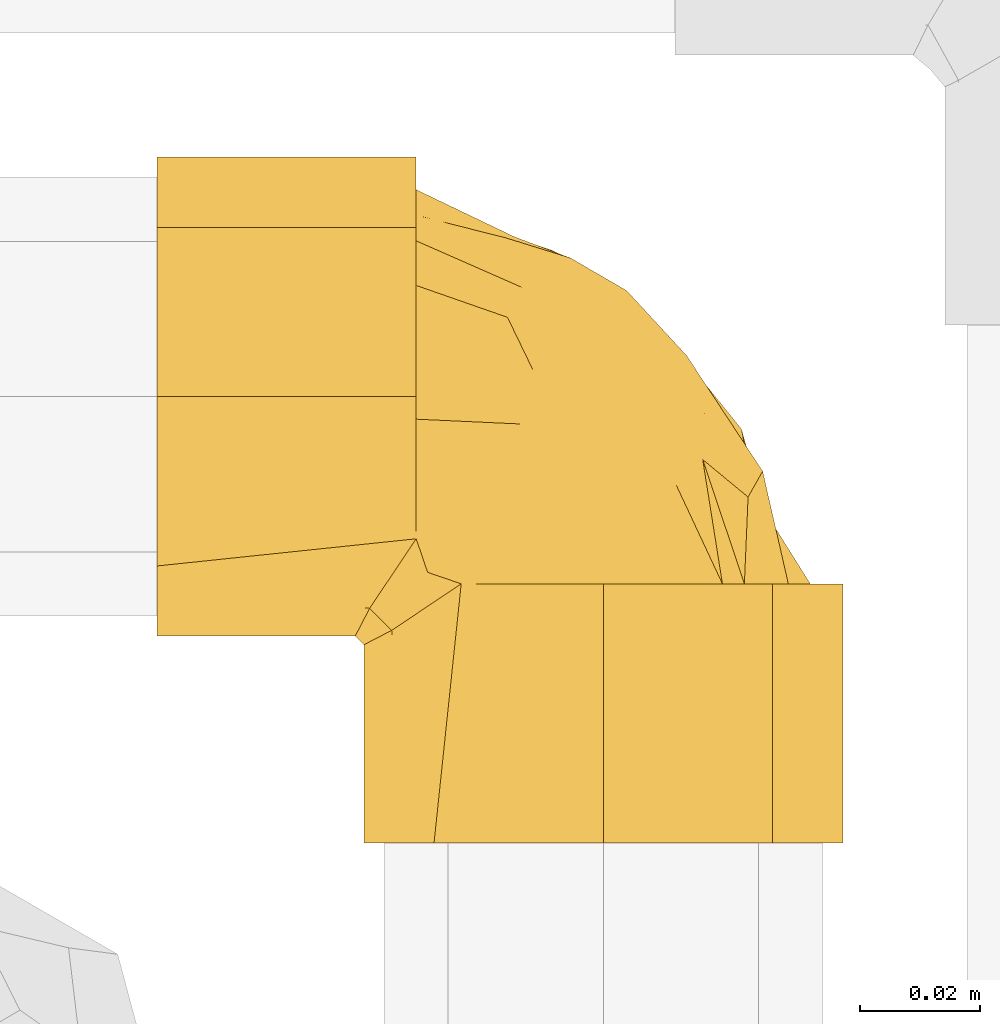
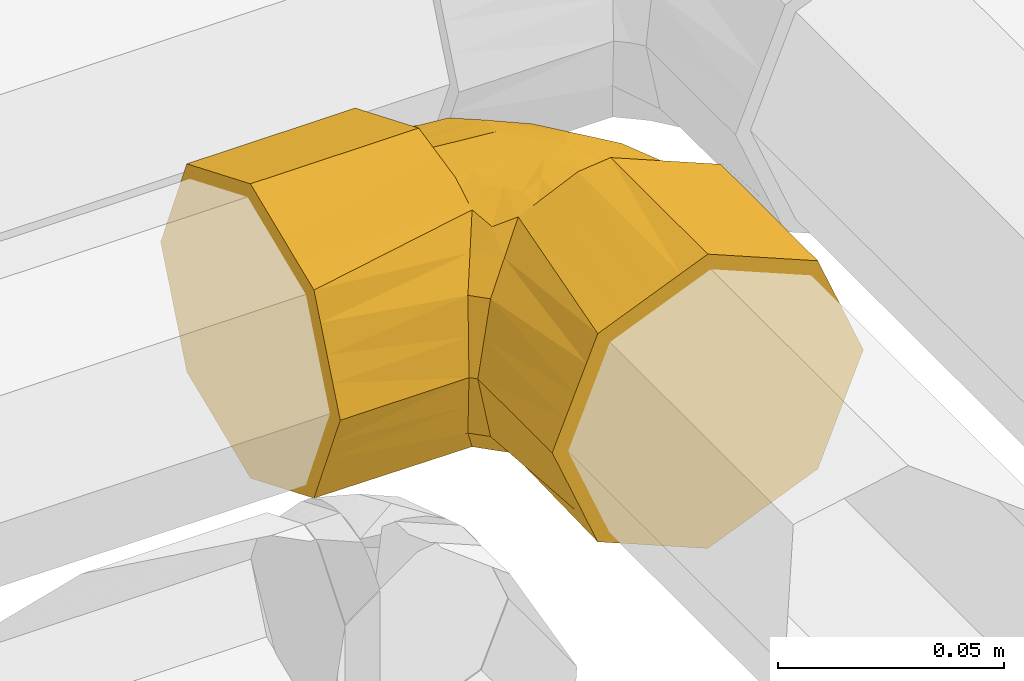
# One storey, part 189 of 652: 1 covering.
"""IFC2X3 building model written with IfcOpenShell, lengths in millimetres."""

from ifc_helpers import new_model, entity, si_unit, converted_unit, direction, frame, origin, place, context, subcontext, project, spatial, faceted_brep, material, type_object, element, save


model = new_model("IFC2X3")

# Units and contexts
model_context = context("Model", 3, precision=0.01, world=frame((0.0, 0.0, 308426.39999999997)), true_north=direction((6.123233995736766e-17, 1.0)))
plan_context = context("Plan", 3, precision=0.01, world=frame((0.0, 0.0, 308426.39999999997)), true_north=direction((6.123233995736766e-17, 1.0)))
body_context = subcontext(model_context, "Body", "Model", "MODEL_VIEW")
ifc_project = project(units=[si_unit("LENGTHUNIT", "METRE", prefix="MILLI"), si_unit("AREAUNIT", "SQUARE_METRE"), si_unit("VOLUMEUNIT", "CUBIC_METRE"), converted_unit("PLANEANGLEUNIT", "DEGREE", entity("IfcPlaneAngleMeasure", 0.017453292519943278), si_unit("PLANEANGLEUNIT", "RADIAN"), dimensions=[0, 0, 0, 0, 0, 0, 0])], contexts=[model_context, plan_context])

# Site, building, storey
site_placement = place(None, origin())
site = spatial("IfcSite", under=ifc_project, at=site_placement, Name="Default", CompositionType="ELEMENT")
building_placement = place(site_placement, origin())
building = spatial("IfcBuilding", under=site, at=building_placement, CompositionType="ELEMENT")
storey_placement = place(building_placement, frame((0.0, 0.0, 1730.6999999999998)))
storey = spatial("IfcBuildingStorey", under=building, at=storey_placement, Name="EG_Produktion_FFB", CompositionType="ELEMENT", Elevation=1730.6999999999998)

# Covering
ifc_material = material(Name="Dämmung - Armaflex-Schlauch")
covering_type = type_object("IfcCoveringType", Name="Rohrdämmung außen:Armaflex-Schlauch", PredefinedType="INSULATION")
covering_placement = place(storey_placement, frame((73330.91575000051, 41450.91419970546, 2523.599652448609)))
element("IfcCovering", 1, at=covering_placement, inside=storey, type_object=covering_type, material=ifc_material, Name="Rohrdämmung außen:Armaflex-Schlauch", ObjectType="Rohrdämmung außen:Armaflex-Schlauch", PredefinedType="INSULATION", context=body_context, shape_type="Brep", body=[
    faceted_brep([(60.144076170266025, 43.00574999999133, 6.083537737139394), (64.13185283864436, 43.00574999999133, 5.617026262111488), (70.33992920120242, 43.00574999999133, 4.890772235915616), (77.97579246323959, 43.00574999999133, 8.331864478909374), (85.61165572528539, 43.00574999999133, 11.77295672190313), (92.7724816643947, 43.00574999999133, 14.999973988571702), (99.933307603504, 43.00574999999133, 18.22699125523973), (104.18429126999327, 43.00574999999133, 29.79013174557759), (108.43527493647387, 43.00574999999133, 41.35327223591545), (104.78880055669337, 43.00574999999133, 48.56469745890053), (101.14232617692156, 43.00574999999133, 55.77612268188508), (97.4958517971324, 43.00574999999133, 62.98754790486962), (93.84937741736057, 43.00574999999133, 70.19897312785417), (86.49570507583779, 43.00574999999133, 72.58148097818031), (78.41781713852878, 43.00574999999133, 75.1986266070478), (70.33992920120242, 43.00574999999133, 77.81577223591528), (64.13185283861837, 43.00574999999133, 77.08951820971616), (60.144076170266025, 43.00574999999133, 76.6230067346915), (55.31227974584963, 43.00574999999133, 74.98470757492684), (50.48048332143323, 43.00574999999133, 73.3464084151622), (58.097909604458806, 43.00574999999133, 76.78344421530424), (65.7153358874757, 43.00574999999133, 80.22048001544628), (74.08425000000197, 43.00574999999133, 81.11127223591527), (82.0800204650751, 43.00574999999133, 77.79931566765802), (88.14082570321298, 43.00574999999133, 75.28884793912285), (95.16911355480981, 43.00574999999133, 72.3776357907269), (102.19740140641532, 43.00574999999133, 69.46642364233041), (105.10861355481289, 43.00574999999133, 62.438135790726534), (108.01982570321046, 43.00574999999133, 55.40984793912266), (110.93103785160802, 43.00574999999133, 48.381560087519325), (113.84224999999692, 43.00574999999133, 41.35327223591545), (110.53029340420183, 43.00574999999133, 33.357501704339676), (108.01982570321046, 43.00574999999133, 27.296696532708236), (105.10861355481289, 43.00574999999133, 20.26840868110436), (102.19740140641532, 43.00574999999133, 13.240120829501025), (95.16911355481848, 43.00574999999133, 10.32890868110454), (88.14082570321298, 43.00574999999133, 7.4176965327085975), (82.08001919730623, 43.00574999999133, 4.9072282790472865), (74.08425000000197, 43.00574999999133, 1.595272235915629), (65.90827541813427, 43.00574999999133, 3.354446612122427), (57.732300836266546, 43.00574999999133, 5.1136209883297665), (50.48048332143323, 43.00574999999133, 9.360136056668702), (55.31227974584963, 43.00574999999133, 7.721836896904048), (67.05596214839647, 0.0, 78.20006008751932), (60.02767429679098, 0.0, 75.28884793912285), (52.9993864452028, 0.0, 72.3776357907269), (45.971098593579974, 0.0, 69.46642364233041), (43.05988644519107, 0.0, 62.438135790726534), (40.1486742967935, 0.0, 55.40984793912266), (37.63820666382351, 0.0, 49.34904293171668), (34.32624999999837, 0.0, 41.35327223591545), (37.63820598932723, 0.0, 33.35750316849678), (40.1486742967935, 0.0, 27.296696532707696), (43.05988644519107, 0.0, 20.268408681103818), (45.971098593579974, 0.0, 13.240120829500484), (52.99938644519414, 0.0, 10.328908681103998), (60.02767429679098, 0.0, 7.417696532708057), (67.05596214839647, 0.0, 4.506484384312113), (74.08425000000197, 0.0, 1.595272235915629), (81.11253785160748, 0.0, 4.506484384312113), (88.14082570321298, 0.0, 7.4176965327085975), (95.16911355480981, 0.0, 10.32890868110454), (102.19740140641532, 0.0, 13.240120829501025), (105.10861355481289, 0.0, 20.2684086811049), (108.01982570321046, 0.0, 27.296696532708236), (110.93103785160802, 0.0, 34.32498438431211), (113.84224999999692, 0.0, 41.35327223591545), (110.93103785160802, 0.0, 48.381560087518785), (108.01982570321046, 0.0, 55.40984793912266), (105.10861355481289, 0.0, 62.438135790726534), (102.19740140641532, 0.0, 69.46642364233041), (90.0757916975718, 0.0, 74.48735878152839), (82.08002084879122, 0.0, 77.79931550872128), (74.08425000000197, 0.0, 81.11127223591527), (44.71268924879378, 39.14313917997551, 66.64936056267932), (34.32624999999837, 32.88734533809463, 41.35327223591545), (36.63557258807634, 34.08393684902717, 50.65279247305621), (38.94489517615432, 35.280528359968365, 59.95231271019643), (37.79023388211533, 34.68223260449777, 55.302552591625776), (44.71268924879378, 39.14313917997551, 16.057183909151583), (36.63557258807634, 34.08393684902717, 32.053751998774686), (38.94489517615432, 35.280528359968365, 22.754231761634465), (35.39615835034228, 33.44172576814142, 37.044807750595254), (43.00574999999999, 74.08424999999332, 1.5952722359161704), (43.00574999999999, 82.08002040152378, 4.907228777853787), (43.00574999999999, 88.14082570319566, 7.4176965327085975), (43.00574999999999, 95.16911355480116, 10.32890868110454), (43.00574999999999, 102.19740140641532, 13.240120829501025), (43.00574999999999, 105.10861355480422, 20.26840868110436), (43.00574999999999, 108.01982570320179, 27.296696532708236), (43.00574999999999, 110.53029398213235, 33.357503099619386), (43.00574999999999, 113.84224999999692, 41.35327223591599), (43.00574999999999, 110.53029355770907, 49.349042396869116), (43.00574999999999, 108.01982570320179, 55.40984793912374), (43.00574999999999, 105.10861355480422, 62.43813579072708), (43.00574999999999, 102.19740140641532, 69.46642364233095), (43.00574999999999, 95.16911355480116, 72.37763579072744), (43.00574999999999, 88.14082570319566, 75.28884793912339), (43.00574999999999, 81.11253785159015, 78.20006008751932), (43.00574999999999, 74.08424999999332, 81.1112722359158), (43.00574999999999, 65.90823846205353, 79.35208118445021), (43.00574999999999, 57.73222692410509, 77.5928901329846), (43.00574999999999, 50.48048332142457, 73.34640841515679), (43.00574999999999, 55.312279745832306, 74.9847075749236), (43.00574999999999, 60.144076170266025, 76.62300673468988), (43.00574999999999, 64.13185213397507, 77.0895181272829), (43.00574999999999, 67.23589066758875, 77.4526451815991), (43.00574999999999, 70.33992920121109, 77.81577223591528), (43.00574999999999, 77.74037965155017, 74.4792263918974), (43.00574999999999, 85.14083010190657, 71.14268054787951), (43.00574999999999, 92.5412805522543, 67.80613470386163), (43.00574999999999, 99.94173100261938, 64.46958885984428), (43.00574999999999, 102.06511698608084, 58.69050970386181), (43.00574999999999, 104.18850296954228, 52.91143054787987), (43.00574999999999, 108.43527493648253, 41.35327223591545), (43.00574999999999, 104.78589932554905, 34.13968333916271), (43.00574999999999, 101.13652371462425, 26.92609444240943), (43.00574999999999, 97.48714810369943, 19.71250554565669), (43.00574999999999, 93.83777249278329, 12.498916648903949), (43.00574999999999, 87.96331166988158, 10.596880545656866), (43.00574999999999, 82.08885084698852, 8.694844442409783), (43.00574999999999, 70.33992920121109, 4.890772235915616), (43.00574999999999, 67.23589066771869, 5.253899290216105), (43.00574999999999, 64.13185213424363, 5.617026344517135), (43.00574999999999, 60.144076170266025, 6.083537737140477), (43.00574999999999, 55.31227974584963, 7.721836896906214), (43.00574999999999, 50.48048332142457, 9.360136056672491), (43.00574999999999, 58.097888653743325, 5.923104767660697), (43.00574999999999, 65.71529398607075, 2.4860734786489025), (0.0, 81.11253785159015, 78.20006008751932), (0.0, 88.14082570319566, 75.28884793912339), (0.0, 95.16911355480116, 72.37763579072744), (0.0, 102.19740140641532, 69.46642364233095), (0.0, 107.21833667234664, 57.34481362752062), (0.0, 110.53029333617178, 49.34904293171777), (0.0, 113.84224999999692, 41.35327223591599), (0.0, 110.93103785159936, 34.32498438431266), (0.0, 108.01982570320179, 27.296696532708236), (0.0, 105.10861355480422, 20.2684086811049), (0.0, 102.19740140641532, 13.240120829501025), (0.0, 95.16911355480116, 10.32890868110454), (0.0, 88.14082570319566, 7.4176965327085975), (0.0, 81.11253785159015, 4.506484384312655), (0.0, 74.08424999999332, 1.5952722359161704), (0.0, 67.05596214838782, 4.506484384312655), (0.0, 60.02767429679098, 7.4176965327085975), (0.0, 52.99938644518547, 10.328908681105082), (0.0, 45.971098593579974, 13.240120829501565), (0.0, 43.05988644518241, 20.26840868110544), (0.0, 40.14867429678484, 27.29669653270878), (0.0, 37.63820673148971, 33.35750137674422), (0.0, 34.32624999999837, 41.35327223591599), (0.0, 37.63820599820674, 49.34904132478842), (0.0, 40.14867429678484, 55.40984793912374), (0.0, 43.05988644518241, 62.43813579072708), (0.0, 45.971098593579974, 69.46642364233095), (0.0, 52.99938644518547, 72.37763579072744), (0.0, 60.02767429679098, 75.28884793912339), (0.0, 66.08847915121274, 77.79931550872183), (0.0, 74.08424999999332, 81.1112722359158), (32.88734533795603, 34.326249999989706, 41.35327223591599), (34.08393684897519, 36.63557258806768, 50.65279247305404), (35.280528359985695, 38.94489517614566, 59.952312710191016), (33.996106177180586, 36.46606666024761, 49.970201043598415), (39.14313917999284, 44.71268924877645, 66.6493605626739), (39.14313917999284, 44.71268924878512, 16.057183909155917), (34.08393684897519, 36.63557258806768, 32.05375199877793), (35.28052835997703, 38.94489517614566, 22.7542317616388), (33.99610617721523, 36.46606666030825, 32.73634342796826), (33.44172575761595, 35.39615833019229, 37.04480783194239), (58.166290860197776, 87.2464164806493, 70.58224481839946), (86.24367512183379, 59.264167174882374, 70.83707710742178), (75.43570574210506, 64.79374823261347, 74.32798861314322), (63.77170858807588, 54.44461824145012, 77.81577223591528), (71.00962303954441, 57.53690591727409, 77.00215070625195), (60.33082901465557, 69.53966351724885, 76.888754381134), (74.69227230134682, 78.61751170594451, 68.42118911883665), (90.57284197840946, 63.635451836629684, 65.41959260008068), (77.92193606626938, 91.69909945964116, 41.35327223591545), (68.6359141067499, 97.0944354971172, 49.419286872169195), (87.88495600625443, 80.91983021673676, 49.77273143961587), (100.80694021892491, 55.179087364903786, 41.35327223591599), (100.52515800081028, 61.704602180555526, 50.77782717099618), (79.21479866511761, 81.91303386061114, 62.17955981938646), (45.389360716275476, 68.51539346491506, 77.81577223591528), (47.77297143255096, 66.6908577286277, 77.81577223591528), (52.54019286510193, 63.04178625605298, 77.81577223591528), (58.15595072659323, 58.74320224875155, 77.81577223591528), (60.494157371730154, 92.25168823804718, 65.51319346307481), (90.87816522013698, 71.24462333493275, 59.20066225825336), (98.10654117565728, 57.41110915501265, 60.21657287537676), (69.60139271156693, 92.6674107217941, 58.188112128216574), (81.49463540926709, 84.61256912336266, 55.84987819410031), (60.46384303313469, 100.06718719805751, 41.35327223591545), (59.30685202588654, 100.62176107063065, 41.35327223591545), (93.1786055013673, 67.35242472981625, 41.35327223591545), (89.4411801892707, 73.31662804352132, 41.35327223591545), (85.55027078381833, 79.5257620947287, 41.35327223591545), (57.68461622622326, 100.50080532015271, 55.744451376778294), (62.34563514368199, 78.60353708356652, 73.79933943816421), (98.93822756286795, 58.161189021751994, 41.35327223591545), (67.32420901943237, 48.25776996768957, 77.81577223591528), (59.547719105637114, 48.611422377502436, 77.16648559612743), (54.28952280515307, 47.904704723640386, 75.95462844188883), (33.63371593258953, 33.6337159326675, 41.35327223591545), (51.45915617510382, 51.4591566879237, 76.03572006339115), (44.908883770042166, 44.908883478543, 71.49570768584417), (47.90470403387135, 54.28952252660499, 75.95462822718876), (48.5166417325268, 59.518701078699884, 77.15152320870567), (59.54771910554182, 48.61142237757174, 5.540058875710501), (67.32420901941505, 48.25776996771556, 4.890772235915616), (44.90888341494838, 44.90888338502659, 11.210837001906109), (51.459155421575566, 51.45915593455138, 6.670824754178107), (54.289522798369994, 47.90470469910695, 6.751916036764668), (58.15595072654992, 58.74320224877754, 4.890772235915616), (47.904704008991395, 54.28952251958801, 6.7519162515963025), (48.51664173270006, 59.518701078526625, 5.555021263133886), (47.77297143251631, 66.6908577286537, 4.890772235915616), (63.77170858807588, 54.44461824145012, 4.890772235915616), (45.389360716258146, 68.51539346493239, 4.890772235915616), (52.54019286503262, 63.041786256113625, 4.890772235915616), (77.88884430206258, 59.61186262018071, 7.9005570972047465), (85.68390575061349, 58.14792793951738, 11.14429202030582), (57.20212685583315, 76.4130160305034, 6.907352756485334), (85.21783817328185, 83.37405497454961, 31.821832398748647), (76.99963686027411, 79.87091005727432, 16.763579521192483), (68.28685011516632, 74.4438185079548, 9.11707789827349), (64.58632217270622, 86.90253298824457, 14.59885622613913), (64.72447259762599, 66.09863101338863, 5.892051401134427), (73.0393897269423, 55.988582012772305, 5.886693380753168), (85.65544995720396, 67.81026209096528, 15.338625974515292), (75.83338581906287, 86.64625364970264, 22.52145959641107), (65.65295551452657, 98.35278997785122, 31.617498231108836), (60.45142062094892, 96.79734628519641, 22.695444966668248), (57.30670812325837, 83.3350649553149, 9.619445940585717), (95.65270419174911, 64.8027936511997, 24.56861790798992), (86.3305076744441, 74.76137203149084, 21.06787622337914), (94.01862068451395, 55.99524376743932, 16.734184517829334), (97.0320102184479, 68.64794002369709, 33.082787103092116)], [[[0, 1, 2, 3, 4, 5, 6, 7, 8, 9, 10, 11, 12, 13, 14, 15, 16, 17, 18, 19, 20, 21, 22, 23, 24, 25, 26, 27, 28, 29, 30, 31, 32, 33, 34, 35, 36, 37, 38, 39, 40, 41, 42]], [[43, 44, 45, 46, 47, 48, 49, 50, 51, 52, 53, 54, 55, 56, 57, 58, 59, 60, 61, 62, 63, 64, 65, 66, 67, 68, 69, 70, 71, 72, 73]], [[47, 46, 74]], [[75, 50, 49]], [[76, 75, 49]], [[48, 77, 78, 76]], [[47, 74, 77]], [[44, 20, 45]], [[43, 21, 44]], [[46, 19, 74]], [[77, 48, 47]], [[44, 21, 20]], [[43, 22, 21]], [[48, 76, 49]], [[43, 73, 22]], [[45, 20, 19]], [[19, 46, 45]], [[23, 22, 73, 72, 71, 70, 26, 25, 24]], [[26, 70, 69, 68, 67, 66, 30, 29, 28, 27]], [[38, 37, 36, 35, 34, 62, 61, 60, 59, 58]], [[30, 66, 65, 64, 63, 62, 34, 33, 32, 31]], [[56, 40, 39]], [[53, 79, 54]], [[39, 57, 56]], [[41, 55, 54]], [[40, 55, 41]], [[80, 52, 51]], [[52, 80, 81]], [[58, 57, 38]], [[51, 75, 82, 80]], [[38, 57, 39]], [[79, 53, 81]], [[55, 40, 56]], [[51, 50, 75]], [[53, 52, 81]], [[79, 41, 54]], [[83, 84, 85, 86, 87, 88, 89, 90, 91, 92, 93, 94, 95, 96, 97, 98, 99, 100, 101, 102, 103, 104, 105, 106, 107, 108, 109, 110, 111, 112, 113, 114, 115, 116, 117, 118, 119, 120, 121, 122, 123, 124, 125, 126, 127, 128]], [[129, 130, 131, 132, 133, 134, 135, 136, 137, 138, 139, 140, 141, 142, 143, 144, 145, 146, 147, 148, 149, 150, 151, 152, 153, 154, 155, 156, 157, 158, 159]], [[135, 134, 133, 132, 95, 94, 93, 92, 91]], [[95, 132, 131, 130, 129, 159, 99, 98, 97, 96]], [[159, 158, 157, 100]], [[101, 156, 102]], [[99, 159, 100]], [[101, 100, 157]], [[152, 151, 160]], [[102, 156, 155]], [[153, 161, 162]], [[161, 153, 152]], [[152, 160, 163, 161]], [[154, 164, 155]], [[164, 154, 162]], [[156, 101, 157]], [[154, 153, 162]], [[164, 102, 155]], [[148, 147, 165]], [[149, 166, 150]], [[166, 149, 167]], [[160, 151, 150]], [[148, 165, 167]], [[145, 127, 146]], [[144, 128, 145]], [[147, 126, 165]], [[167, 149, 148]], [[145, 128, 127]], [[144, 83, 128]], [[150, 166, 168, 169, 160]], [[144, 143, 83]], [[146, 127, 126]], [[126, 147, 146]], [[91, 90, 89, 88, 87, 139, 138, 137, 136, 135]], [[141, 140, 139, 87, 86, 85, 84, 83, 143, 142]], [[109, 170, 110]], [[13, 171, 172]], [[14, 13, 172]], [[173, 174, 175]], [[176, 171, 177]], [[15, 14, 174]], [[178, 179, 180]], [[9, 181, 182]], [[172, 175, 174]], [[13, 12, 171]], [[12, 11, 177]], [[176, 177, 183]], [[175, 107, 184, 185, 186, 187, 173]], [[188, 170, 176]], [[176, 172, 171]], [[189, 190, 182]], [[11, 10, 190]], [[177, 11, 190]], [[170, 188, 110]], [[191, 183, 192]], [[179, 178, 193, 194]], [[182, 190, 10]], [[189, 182, 180]], [[177, 190, 189]], [[182, 10, 9]], [[182, 195, 180]], [[177, 189, 183]], [[177, 171, 12]], [[180, 195, 196, 197, 178]], [[113, 179, 194]], [[112, 111, 198, 113]], [[198, 111, 188]], [[194, 114, 113]], [[179, 191, 192]], [[199, 175, 172]], [[199, 108, 175]], [[172, 176, 199]], [[188, 111, 110]], [[199, 170, 109]], [[183, 188, 176]], [[108, 199, 109]], [[188, 191, 198]], [[108, 107, 175]], [[176, 170, 199]], [[192, 189, 180]], [[188, 183, 191]], [[189, 192, 183]], [[179, 192, 180]], [[181, 9, 8]], [[182, 181, 200, 195]], [[191, 179, 198]], [[179, 113, 198]], [[174, 173, 201, 15]], [[172, 174, 14]], [[173, 202, 201]], [[173, 187, 203]], [[18, 203, 19]], [[201, 17, 16, 15]], [[204, 76, 163]], [[74, 164, 162, 77]], [[163, 76, 78, 77, 162, 161]], [[205, 102, 206]], [[206, 164, 74]], [[106, 105, 104, 185, 184, 107]], [[205, 207, 102]], [[186, 185, 208, 187]], [[204, 75, 76]], [[163, 160, 204]], [[205, 206, 19]], [[164, 206, 102]], [[203, 205, 19]], [[19, 206, 74]], [[201, 202, 17]], [[17, 202, 18]], [[203, 202, 173]], [[18, 202, 203]], [[102, 207, 103]], [[103, 208, 104]], [[207, 205, 187]], [[208, 103, 207]], [[208, 185, 104]], [[187, 208, 207]], [[203, 187, 205]], [[204, 160, 169]], [[209, 210, 0]], [[169, 168, 166, 167, 81, 80, 82]], [[41, 211, 212]], [[1, 0, 210, 2]], [[213, 212, 214]], [[204, 169, 82]], [[79, 165, 211]], [[126, 125, 215]], [[212, 211, 126]], [[204, 82, 75]], [[167, 165, 79, 81]], [[216, 124, 217]], [[218, 209, 213]], [[122, 121, 219, 217, 124, 123]], [[41, 79, 211]], [[211, 165, 126]], [[209, 0, 42]], [[125, 124, 216]], [[126, 215, 212]], [[125, 216, 215]], [[220, 214, 216, 217]], [[213, 42, 41]], [[212, 213, 41]], [[210, 209, 218]], [[214, 212, 215]], [[209, 42, 213]], [[215, 216, 214]], [[218, 213, 214]], [[4, 221, 222]], [[223, 121, 120]], [[224, 178, 197, 196]], [[225, 226, 227]], [[228, 226, 221]], [[229, 218, 228]], [[222, 226, 230]], [[231, 232, 224]], [[3, 229, 221]], [[233, 232, 231]], [[234, 223, 120]], [[229, 2, 210, 218]], [[224, 235, 236]], [[4, 3, 221]], [[228, 218, 214, 220, 217, 219, 121]], [[237, 222, 230]], [[6, 235, 7]], [[235, 6, 237]], [[238, 200, 7]], [[228, 223, 226]], [[224, 238, 235]], [[234, 226, 223]], [[227, 117, 233]], [[193, 232, 115]], [[224, 232, 178]], [[115, 114, 194, 193]], [[235, 237, 236]], [[238, 224, 196]], [[226, 222, 221]], [[222, 237, 5]], [[5, 237, 6]], [[5, 4, 222]], [[237, 230, 236]], [[7, 200, 181, 8]], [[7, 235, 238]], [[238, 196, 195, 200]], [[227, 118, 117]], [[193, 178, 232]], [[231, 236, 225]], [[233, 117, 116]], [[232, 233, 116]], [[227, 233, 231]], [[229, 3, 2]], [[228, 221, 229]], [[121, 223, 228]], [[119, 118, 234, 120]], [[234, 118, 227]], [[227, 226, 234]], [[232, 116, 115]], [[225, 236, 230]], [[224, 236, 231]], [[226, 225, 230]], [[231, 225, 227]]]),
])

save(model, "model.ifc")
